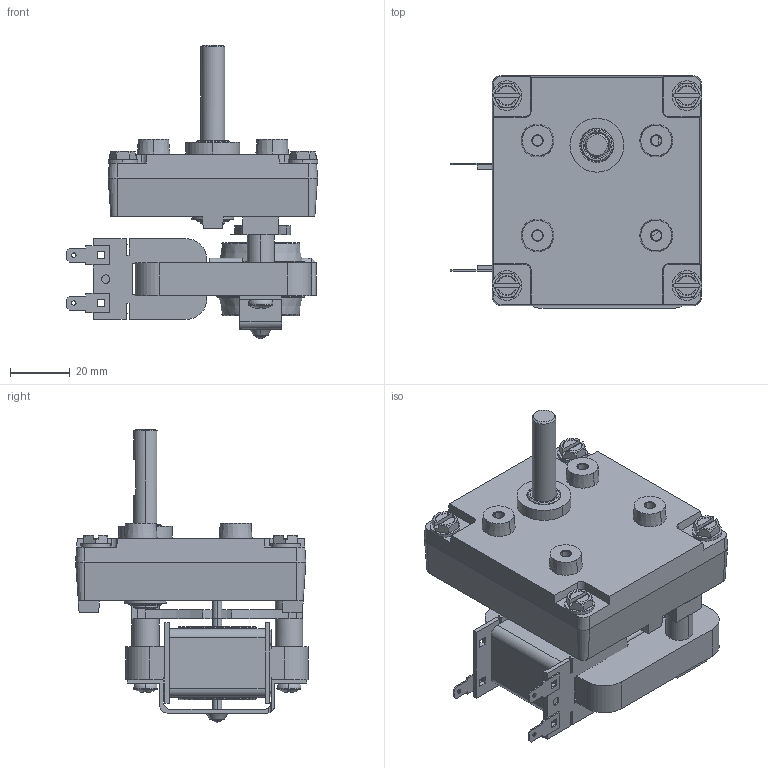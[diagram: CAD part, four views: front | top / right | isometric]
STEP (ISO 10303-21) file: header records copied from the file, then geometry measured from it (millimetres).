
FILE_DESCRIPTION (( 'STEP AP203' ), '1' );
FILE_NAME ('CJ-015 MRA 710-106.STEP', '2018-08-13T12:28:43', ( '' ), ( '' ), 'SwSTEP 2.0', 'SolidWorks 2018', '' );
FILE_SCHEMA (( 'CONFIG_CONTROL_DESIGN' ));
Length unit declared in the file: millimetre
Products named in the file (2): CJ-015 MRA 710-106
Bounding box: 84.05 x 77.85 x 98.05 mm (x, y, z)
Surface area: 43087.4 mm2 (no closed solid volume)
Topology: 0 solids, 25 shells, 539 faces, 1914 edges, 1372 vertices
Faces by surface type: plane 308, cone 116, cylinder 88, torus 23, bspline 4
Entity records: 21654 total; most frequent: CARTESIAN_POINT 4922, DIRECTION 3489, ORIENTED_EDGE 3165, EDGE_CURVE 1908, VERTEX_POINT 1372, AXIS2_PLACEMENT_3D 1202, VECTOR 1085, LINE 1085
